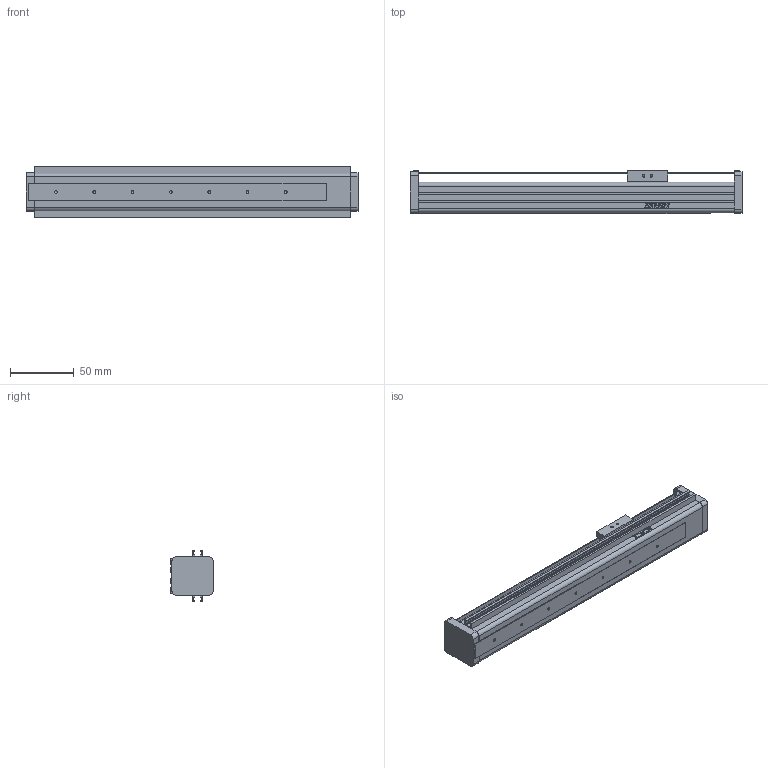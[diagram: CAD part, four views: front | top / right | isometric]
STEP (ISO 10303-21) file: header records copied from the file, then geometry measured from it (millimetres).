
FILE_DESCRIPTION(/* description */ (''),/* implementation_level */ '2;1');
FILE_NAME(/* name */ 'D:\混合母檔20191031\混和母檔\混和母檔\bin\Debug\Download\3D\KE301C-150AF0\KE301C-150AF0.stp',/* time_stamp */ '2019-11-04T13:29:04+08:00',/* author */ ('user'),/* organization */ (''),/* preprocessor_version */ 'ST-DEVELOPER v16.13',/* originating_system */ 'Autodesk Inventor 2018',/* authorisation */ '');
FILE_SCHEMA (('AUTOMOTIVE_DESIGN { 1 0 10303 214 3 1 1 }'));
Length unit declared in the file: millimetre
Products named in the file (3): KE301C-150AF0; KE30-F0-BP; KE30-SL
Assembly tree (2 placements, depth 2):
  KE301C-150AF0
    KE30-F0-BP
    KE30-SL
Bounding box: 260 x 33.67 x 39.6 mm (x, y, z)
Volume: 197315.7 mm3; surface area: 54750.8 mm2
Topology: 2 solids, 6 shells, 459 faces, 1252 edges, 821 vertices
Faces by surface type: plane 264, bspline 114, cylinder 54, cone 19, torus 8
Full cylindrical faces by diameter (mm): 2.013 x4, 2.113 x7, 2.184 x4, 2.459 x4, 2.5 x4, 3 x4, 4 x1, 4.166 x4, 5 x2, 6 x2, 18 x1, 22 x1
Entity records: 18535 total; most frequent: CARTESIAN_POINT 7928, ORIENTED_EDGE 2314, DIRECTION 1730, EDGE_CURVE 1157, VERTEX_POINT 791, LINE 784, VECTOR 784, EDGE_LOOP 556
